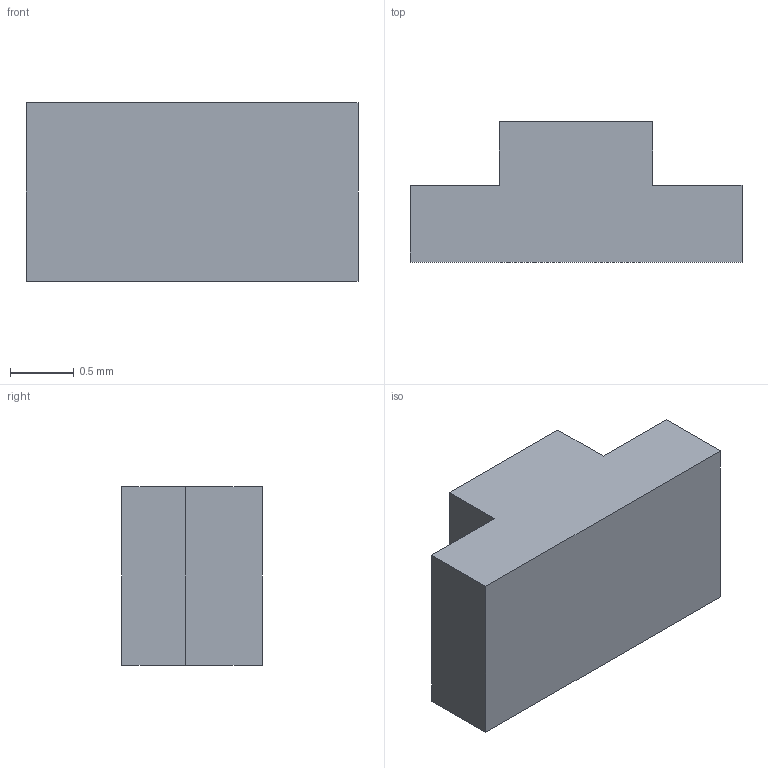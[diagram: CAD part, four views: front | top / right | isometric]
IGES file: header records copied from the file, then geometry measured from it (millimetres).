
Start section:  PTC IGES file: macaw_led_prt.igs
Global section: file name: macaw_led_prt.igs; native system: Pro/ENGINEER by Parametric Technology Corporation; preprocessor: 2000030; author: ECaille; organization: Unknown; date: 000803.092116; units: millimetre
Bounding box: 2.6 x 1.1 x 1.4 mm (x, y, z)
Surface area: 14.7 mm2 (no closed solid volume)
Topology: 0 solids, 0 shells, 10 faces, 80 edges, 112 vertices
Faces by surface type: bspline 10
